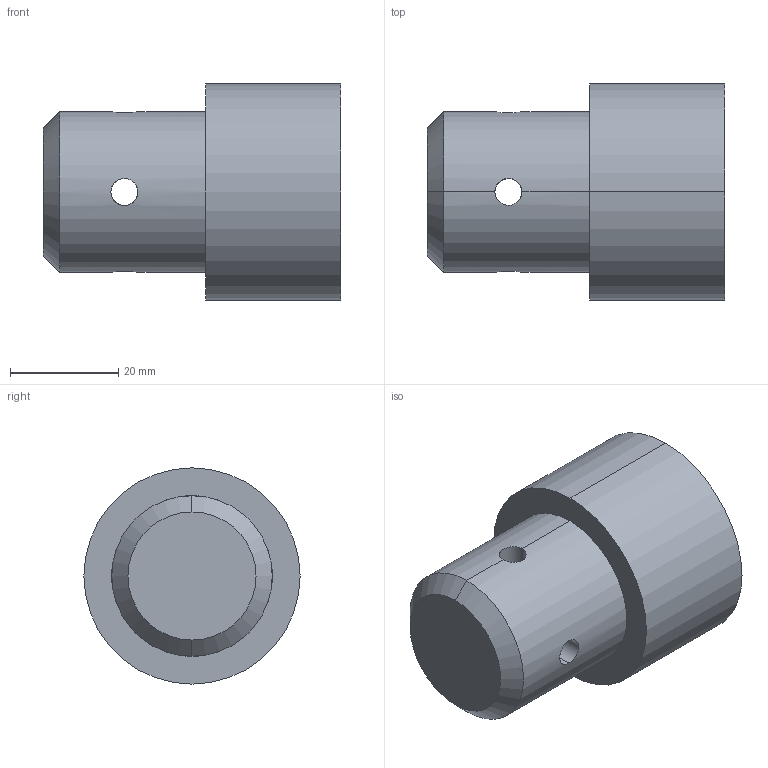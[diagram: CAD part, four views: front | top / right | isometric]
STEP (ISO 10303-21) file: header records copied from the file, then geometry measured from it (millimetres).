
FILE_DESCRIPTION (( 'STEP AP203' ), '1' );
FILE_NAME ('084.313.011.STEP', '2018-02-26T15:16:51', ( '' ), ( '' ), 'SwSTEP 2.0', 'SolidWorks 2016', '' );
FILE_SCHEMA (( 'CONFIG_CONTROL_DESIGN' ));
Length unit declared in the file: millimetre
Products named in the file (1): 084.313.011
Bounding box: 55 x 40 x 40 mm (x, y, z)
Volume: 49978.2 mm3; surface area: 9459.2 mm2
Topology: 1 solids, 1 shells, 21 faces, 52 edges, 29 vertices
Faces by surface type: cylinder 14, cone 4, plane 3
Entity records: 907 total; most frequent: CARTESIAN_POINT 365, ORIENTED_EDGE 100, DIRECTION 92, EDGE_CURVE 50, AXIS2_PLACEMENT_3D 36, VERTEX_POINT 29, EDGE_LOOP 25, FACE_OUTER_BOUND 21
